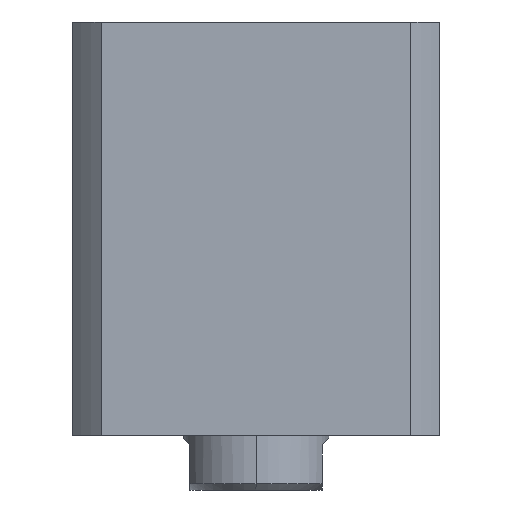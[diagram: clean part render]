
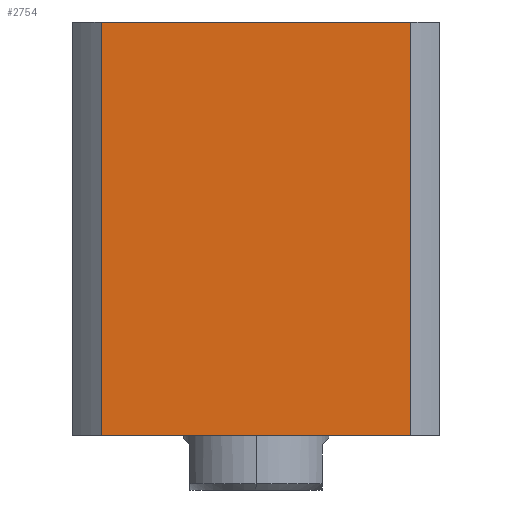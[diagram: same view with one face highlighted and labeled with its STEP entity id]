
A CAD part, front view. The second image highlights one B-rep face of the part: STEP entity #2754.
In plain terms, the highlighted planar face has unit normal (0, -1, 0) as drawn and (-1, 0, 0) by its records, which use the part's own axes.
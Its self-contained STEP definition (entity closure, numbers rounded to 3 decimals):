
#232 = ORIENTED_EDGE ( 'NONE', *, *, #6176, .T. ) ;
#1284 = ORIENTED_EDGE ( 'NONE', *, *, #6984, .F. ) ;
#1844 = EDGE_LOOP ( 'NONE', ( #11626, #232, #9917, #1284 ) ) ;
#2625 = CARTESIAN_POINT ( 'NONE',  ( -57., 47.971, 0. ) ) ;
#2754 = ADVANCED_FACE ( 'NONE', ( #7519 ), #13720, .F. ) ;
#2883 = CARTESIAN_POINT ( 'NONE',  ( -57., 57., 128. ) ) ;
#3671 = LINE ( 'NONE', #11962, #9147 ) ;
#3817 = VERTEX_POINT ( 'NONE', #15015 ) ;
#4055 = CARTESIAN_POINT ( 'NONE',  ( -57., -47.971, 0. ) ) ;
#4316 = VERTEX_POINT ( 'NONE', #4055 ) ;
#6099 = DIRECTION ( 'NONE',  ( 0., 0., 1. ) ) ;
#6102 = VECTOR ( 'NONE', #9582, 1000. ) ;
#6176 = EDGE_CURVE ( 'NONE', #10630, #4316, #12760, .T. ) ;
#6716 = DIRECTION ( 'NONE',  ( 1., 0., 0. ) ) ;
#6984 = EDGE_CURVE ( 'NONE', #3817, #13603, #14980, .T. ) ;
#7519 = FACE_OUTER_BOUND ( 'NONE', #1844, .T. ) ;
#7624 = CARTESIAN_POINT ( 'NONE',  ( -57., 57., 128. ) ) ;
#7949 = AXIS2_PLACEMENT_3D ( 'NONE', #2883, #6716, #14911 ) ;
#8342 = VECTOR ( 'NONE', #13464, 1000. ) ;
#8414 = CARTESIAN_POINT ( 'NONE',  ( -57., -47.971, -172. ) ) ;
#9147 = VECTOR ( 'NONE', #6099, 1000. ) ;
#9582 = DIRECTION ( 'NONE',  ( 0., 0., -1. ) ) ;
#9626 = VECTOR ( 'NONE', #10233, 1000. ) ;
#9917 = ORIENTED_EDGE ( 'NONE', *, *, #12508, .F. ) ;
#10233 = DIRECTION ( 'NONE',  ( 0., -1., 0. ) ) ;
#10630 = VERTEX_POINT ( 'NONE', #2625 ) ;
#11626 = ORIENTED_EDGE ( 'NONE', *, *, #14606, .F. ) ;
#11962 = CARTESIAN_POINT ( 'NONE',  ( -57., 47.971, -172. ) ) ;
#12305 = LINE ( 'NONE', #8414, #6102 ) ;
#12508 = EDGE_CURVE ( 'NONE', #13603, #4316, #12305, .T. ) ;
#12760 = LINE ( 'NONE', #14944, #9626 ) ;
#13464 = DIRECTION ( 'NONE',  ( 0., -1., 0. ) ) ;
#13603 = VERTEX_POINT ( 'NONE', #13618 ) ;
#13618 = CARTESIAN_POINT ( 'NONE',  ( -57., -47.971, 128. ) ) ;
#13720 = PLANE ( 'NONE',  #7949 ) ;
#14606 = EDGE_CURVE ( 'NONE', #10630, #3817, #3671, .T. ) ;
#14911 = DIRECTION ( 'NONE',  ( 0., 1., 0. ) ) ;
#14944 = CARTESIAN_POINT ( 'NONE',  ( -57., 57., 0. ) ) ;
#14980 = LINE ( 'NONE', #7624, #8342 ) ;
#15015 = CARTESIAN_POINT ( 'NONE',  ( -57., 47.971, 128. ) ) ;
